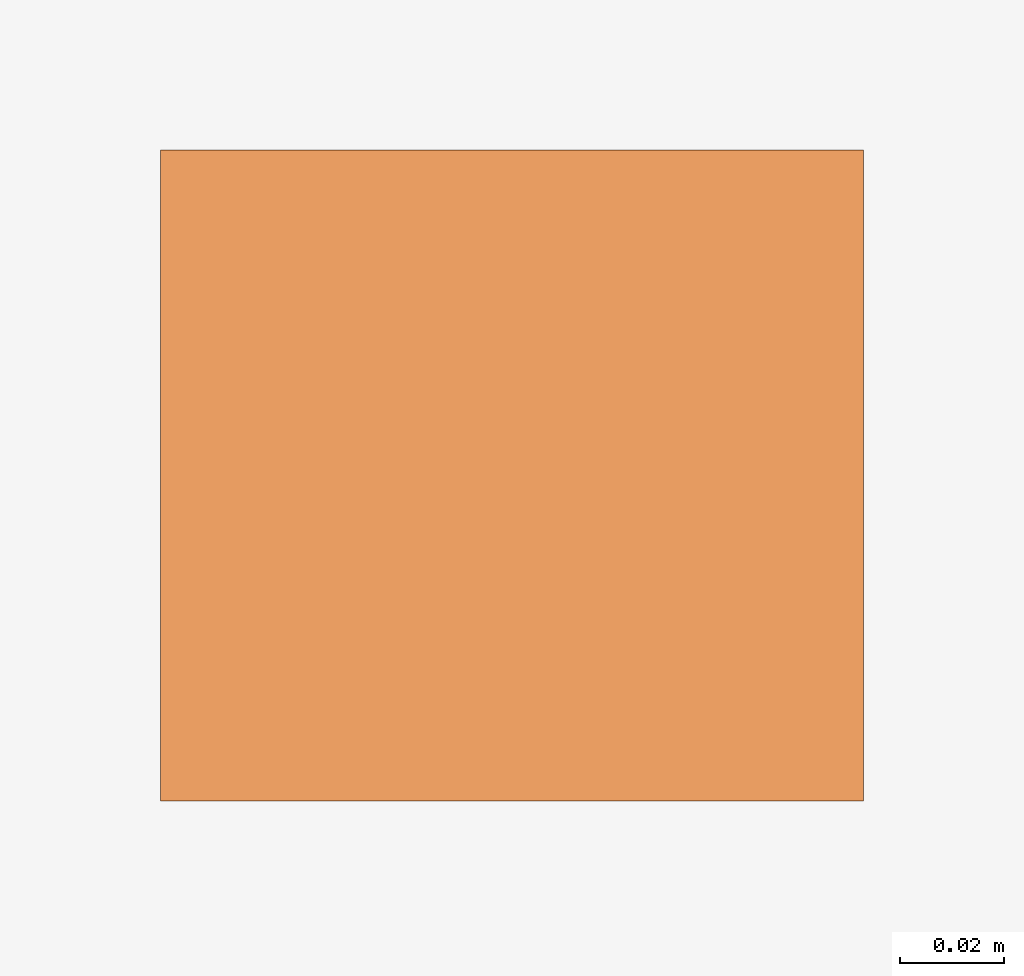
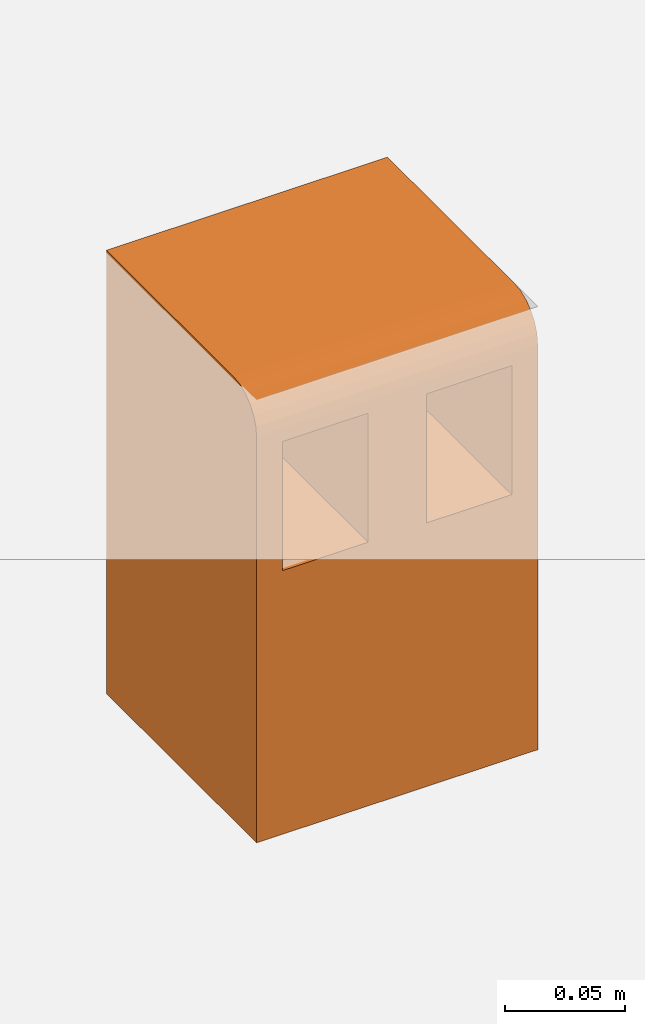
# One storey, part 2 of 2: 1 proxy.
"""IFC2X3 building model written with IfcOpenShell, lengths in millimetres."""

import ifcopenshell
import ifcopenshell.guid

model = None  # the IFC model being written
_history = None  # IfcOwnerHistory: only IFC2X3 demands one
_inside = {}  # id of a spatial element -> (the spatial element, [elements in it])
_under = {}  # id of a project, library or spatial element -> (it, [spatial elements below it])
_declared = {}  # id of a project -> (the project, [libraries it declares])
_typed = {}  # id of a type object -> (the type object, [elements of that type])
_made_of = {}  # id of a material, layer set ... -> (it, [elements and type objects made of it])


def new_model(schema):
    """Start an empty IFC model of exactly this schema.

    Asked for "IFC4X3", IfcOpenShell would pick the latest addendum, in which some entities
    have other attributes; the version numbers below select the first issue.
    IFC2X3 requires an IfcOwnerHistory on every rooted entity: one is made here for all.
    """
    global model, _history
    if schema == "IFC4X3":
        model = ifcopenshell.file(schema_version=(4, 3, 0, 0))
    else:
        model = ifcopenshell.file(schema=schema)
    _inside.clear()
    _under.clear()
    _declared.clear()
    _typed.clear()
    _made_of.clear()
    _history = None
    if model.schema == "IFC2X3":
        org = make("IfcOrganization", Name="unknown")
        user = make(
            "IfcPersonAndOrganization",
            ThePerson=make("IfcPerson", FamilyName="unknown"),
            TheOrganization=org,
        )
        app = make(
            "IfcApplication",
            ApplicationDeveloper=org,
            Version="unknown",
            ApplicationFullName="unknown",
            ApplicationIdentifier="unknown",
        )
        _history = make(
            "IfcOwnerHistory",
            OwningUser=user,
            OwningApplication=app,
            ChangeAction="ADDED",
            CreationDate=0,
        )
    return model


def make(cls, **values):
    """One entity of the class cls with the attributes given. An attribute that is None is left unset."""
    return model.create_entity(
        cls, **{name: value for name, value in values.items() if value is not None}
    )


def entity(cls, *values):
    """Any entity or typed value of the class cls, its attributes in the order of the schema. None: left unset."""
    e = model.create_entity(cls)
    for i, value in enumerate(values):
        if value is not None:
            e[i] = value
    return e


def rooted(cls, **values):
    """An entity with a GlobalId (a new one), such as an element, a storey or a relation."""
    return make(cls, GlobalId=ifcopenshell.guid.new(), OwnerHistory=_history, **values)


def si_unit(unit_type, name, prefix=None):
    """IfcSIUnit, for example si_unit("LENGTHUNIT", "METRE", prefix="MILLI")."""
    return make("IfcSIUnit", UnitType=unit_type, Prefix=prefix, Name=name)


def converted_unit(unit_type, name, factor, base, dimensions=None, offset=None):
    """IfcConversionBasedUnit, such as the inch: factor (a typed value) times the base unit."""
    return make(
        "IfcConversionBasedUnit"
        if offset is None
        else "IfcConversionBasedUnitWithOffset",
        ConversionOffset=offset,
        Dimensions=None
        if dimensions is None
        else entity("IfcDimensionalExponents", *dimensions),
        UnitType=unit_type,
        Name=name,
        ConversionFactor=make(
            "IfcMeasureWithUnit", ValueComponent=factor, UnitComponent=base
        ),
    )


def assignment(units):
    """IfcUnitAssignment: the units of a project."""
    return None if units is None else make("IfcUnitAssignment", Units=units)


def point(xyz):
    """IfcCartesianPoint."""
    return None if xyz is None else make("IfcCartesianPoint", Coordinates=xyz)


def direction(xyz):
    """IfcDirection."""
    return None if xyz is None else make("IfcDirection", DirectionRatios=xyz)


def frame(location, z_axis=None, x_axis=None):
    """IfcAxis2Placement3D, a coordinate frame: its origin and axes. An axis left out is left unset."""
    return make(
        "IfcAxis2Placement3D",
        Location=point(location),
        Axis=direction(z_axis),
        RefDirection=direction(x_axis),
    )


def origin():
    """The frame at (0, 0, 0) with its axes left unset."""
    return frame((0.0, 0.0, 0.0))


def place(relative_to, where):
    """IfcLocalPlacement: puts the frame where relative to a parent placement (None: the world)."""
    return make(
        "IfcLocalPlacement", PlacementRelTo=relative_to, RelativePlacement=where
    )


def context(
    kind, dimensions, precision=None, world=None, true_north=None, identifier=None
):
    """IfcGeometricRepresentationContext, for example the 3D "Model" context."""
    return make(
        "IfcGeometricRepresentationContext",
        ContextIdentifier=identifier,
        ContextType=kind,
        CoordinateSpaceDimension=dimensions,
        Precision=precision,
        WorldCoordinateSystem=world,
        TrueNorth=true_north,
    )


def subcontext(parent, identifier, kind, view, scale=None):
    """IfcGeometricRepresentationSubContext, for example "Body" below "Model"."""
    return make(
        "IfcGeometricRepresentationSubContext",
        ContextIdentifier=identifier,
        ContextType=kind,
        ParentContext=parent,
        TargetScale=scale,
        TargetView=view,
    )


def project(units=None, contexts=None):
    """IfcProject with its units and contexts."""
    return rooted(
        "IfcProject",
        Name="project",
        RepresentationContexts=contexts,
        UnitsInContext=assignment(units),
    )


def spatial(cls, under=None, at=None, **own):
    """A site, building, storey or space (cls), placed at a placement, below another one or the project."""
    s = rooted(cls, ObjectPlacement=at, **own)
    if under is not None:
        _under.setdefault(under.id(), (under, []))[1].append(s)
    return s


def faces_of(points, faces, orient=None, outer=None):
    """IfcFace entities. A face is a list of loops; a loop is a list of indices into points, from 0.

    orient and outer hold one flag for each loop. By default every Orientation is true, the
    first loop of a face is its IfcFaceOuterBound and the others are IfcFaceBound.
    """
    made = []
    for i, loops in enumerate(faces):
        bounds = []
        for j, loop in enumerate(loops):
            is_outer = j == 0 if outer is None else outer[i][j]
            bounds.append(
                make(
                    "IfcFaceOuterBound" if is_outer else "IfcFaceBound",
                    Bound=make("IfcPolyLoop", Polygon=[points[k] for k in loop]),
                    Orientation=True if orient is None else orient[i][j],
                )
            )
        made.append(make("IfcFace", Bounds=bounds))
    return made


def faceted_brep(points, faces, orient=None, outer=None, voids=None):
    """IfcFacetedBrep: a solid bounded by flat faces; with voids (closed shells), ...WithVoids."""
    shared = [point(p) for p in points]
    hull = make("IfcClosedShell", CfsFaces=faces_of(shared, faces, orient, outer))
    if voids is None:
        return make("IfcFacetedBrep", Outer=hull)
    return make(
        "IfcFacetedBrepWithVoids",
        Outer=hull,
        Voids=[
            make(cls, CfsFaces=faces_of(shared, fs, o, b)) for cls, fs, o, b in voids
        ],
    )


def shape(context_of_items, identifier, shape_type, items):
    """IfcShapeRepresentation: the items that make up one representation, for example the "Body"."""
    return make(
        "IfcShapeRepresentation",
        ContextOfItems=context_of_items,
        RepresentationIdentifier=identifier,
        RepresentationType=shape_type,
        Items=items,
    )


def source(mapping_origin, context_of_items, identifier, shape_type, items):
    """IfcRepresentationMap: a shape defined once, which mapped items show again and again."""
    return make(
        "IfcRepresentationMap",
        MappingOrigin=mapping_origin,
        MappedRepresentation=shape(context_of_items, identifier, shape_type, items),
    )


def transform(
    local_origin,
    x_axis=None,
    y_axis=None,
    z_axis=None,
    scale=None,
    scale2=None,
    scale3=None,
    uniform=True,
):
    """IfcCartesianTransformationOperator3D, or its non-uniform kind. x_axis, y_axis, z_axis: its Axis1, 2, 3."""
    if uniform:
        return make(
            "IfcCartesianTransformationOperator3D",
            Axis1=direction(x_axis),
            Axis2=direction(y_axis),
            LocalOrigin=point(local_origin),
            Scale=scale,
            Axis3=direction(z_axis),
        )
    return make(
        "IfcCartesianTransformationOperator3DnonUniform",
        Axis1=direction(x_axis),
        Axis2=direction(y_axis),
        LocalOrigin=point(local_origin),
        Scale=scale,
        Axis3=direction(z_axis),
        Scale2=scale2,
        Scale3=scale3,
    )


def mapped(mapping_source, mapping_target):
    """IfcMappedItem: shows the shape of a source again, moved by a transform."""
    return make(
        "IfcMappedItem", MappingSource=mapping_source, MappingTarget=mapping_target
    )


def material(Name=None, Category=None):
    """IfcMaterial."""
    return make("IfcMaterial", Name=Name, Category=Category)


def made_of(thing, what):
    """Note that an element or type object is made of a material, layer set ...; save() writes the relation."""
    if what is not None:
        _made_of.setdefault(what.id(), (what, []))[1].append(thing)
    return thing


def element(
    cls,
    number,
    at=None,
    inside=None,
    cuts=None,
    type_object=None,
    material=None,
    context=None,
    identifier="Body",
    shape_type=None,
    held_by="IfcProductDefinitionShape",
    body=None,
    shapes=None,
    **own,
):
    """One element of the class cls, such as IfcWall. Its Tag is "e" and its number.

    at: its placement. inside: the storey or other place that contains it. cuts: it is an
    opening in that element (IfcRelVoidsElement). A single representation is given by context,
    identifier, shape_type and body (its items); several are given by shapes. held_by: the class
    of the entity that holds the representations. save() writes the other relations.
    """
    e = rooted(cls, Tag="e%d" % number, ObjectPlacement=at, **own)
    if body is not None:
        shapes = [shape(context, identifier, shape_type, body)]
    if shapes is not None:
        e.Representation = make(held_by, Representations=shapes)
    if inside is not None:
        _inside.setdefault(inside.id(), (inside, []))[1].append(e)
    if cuts is not None:
        rooted(
            "IfcRelVoidsElement", RelatingBuildingElement=cuts, RelatedOpeningElement=e
        )
    if type_object is not None:
        _typed.setdefault(type_object.id(), (type_object, []))[1].append(e)
    return made_of(e, material)


def aggregate(whole, parts):
    """IfcRelAggregates: a whole, such as a stair, and the parts it consists of."""
    return rooted("IfcRelAggregates", RelatingObject=whole, RelatedObjects=parts)


def save(model, path):
    """Write the relations noted so far, then the file.

    IfcRelAggregates (storeys below a building ...), IfcRelContainedInSpatialStructure (elements
    in a storey), IfcRelDefinesByType, IfcRelAssociatesMaterial and IfcRelDeclares: one each for
    every whole, place, type object, material and project.
    """
    for whole, parts in _under.values():
        aggregate(whole, parts)
    for where, things in _inside.values():
        rooted(
            "IfcRelContainedInSpatialStructure",
            RelatedElements=things,
            RelatingStructure=where,
        )
    for kind, things in _typed.values():
        rooted("IfcRelDefinesByType", RelatedObjects=things, RelatingType=kind)
    for what, things in _made_of.values():
        rooted("IfcRelAssociatesMaterial", RelatedObjects=things, RelatingMaterial=what)
    for by, libraries in _declared.values():
        rooted("IfcRelDeclares", RelatingContext=by, RelatedDefinitions=libraries)
    model.write(path)


model = new_model("IFC2X3")

# Units and contexts
model_context = context("Model", 3, precision=1e-06, world=origin(), true_north=direction((2.0, 6.12303176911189e-17, 1.0)))
context_of_model = context(None, 3, precision=1e-06, world=origin(), true_north=direction((2.0, 6.12303176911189e-17, 1.0)))
body_context = subcontext(model_context, "Body", "Model", "MODEL_VIEW")
ifc_project = project(units=[si_unit("LENGTHUNIT", "METRE", prefix="MILLI"), si_unit("AREAUNIT", "SQUARE_METRE", prefix="MILLI"), si_unit("VOLUMEUNIT", "CUBIC_METRE", prefix="MILLI"), converted_unit("PLANEANGLEUNIT", "DEGREE", entity("IfcRatioMeasure", 0.0174532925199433), si_unit("PLANEANGLEUNIT", "RADIAN"), dimensions=[0, 0, 0, 0, 0, 0, 0]), si_unit("TIMEUNIT", "SECOND")], contexts=[model_context, context_of_model])

# Site, building, storey
site_placement = place(None, origin())
site = spatial("IfcSite", under=ifc_project, at=site_placement, Name="Default", CompositionType="ELEMENT")
building_placement = place(site_placement, origin())
building = spatial("IfcBuilding", under=site, at=building_placement, CompositionType="ELEMENT")
storey_placement = place(building_placement, origin())
storey = spatial("IfcBuildingStorey", under=building, at=storey_placement, Name="Level 1", CompositionType="ELEMENT", Elevation=0.0)

# Proxy
ifc_material = material(Name="Grey Polymer Concrete")
shared_shape = source(origin(), body_context, "Body", "Brep", [
    faceted_brep([(14.0, 113.0, -25.6374999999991), (14.0, 113.0, -91.181499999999), (55.0, 113.0, -91.181499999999), (55.0, 113.0, -25.6374999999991), (-67.4999999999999, 19.0, 0.0), (-67.4999999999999, 0.0, -19.0), (-67.4999999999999, 9.50000000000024, -2.54551732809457), (-67.4999999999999, 14.0824381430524, -0.647409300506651), (-67.4999999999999, 2.54551732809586, -9.49999999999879), (-67.4999999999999, 5.56497115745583, -5.56497115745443), (-67.5000000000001, 125.0, 0.0), (-67.5000000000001, 125.0, -225.0), (-67.4999999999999, 0.647409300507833, -14.0824381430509), (-67.4999999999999, 0.0, -225.0), (67.5000000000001, 0.647409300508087, -14.0824381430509), (67.5000000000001, 0.0, -19.0), (67.5000000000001, 19.0, 0.0), (67.5000000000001, 14.0824381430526, -0.647409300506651), (67.4999999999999, 125.0, -225.0), (67.4999999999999, 125.0, 0.0), (67.5000000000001, 0.0, -225.0), (67.5000000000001, 2.5455173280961, -9.49999999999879), (67.5000000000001, 9.50000000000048, -2.54551732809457), (67.5000000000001, 5.56497115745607, -5.56497115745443), (14.0, 0.0, -25.6374999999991), (55.0, 0.0, -25.6374999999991), (-14.0, 0.0, -25.6374999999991), (55.0, 0.0, -91.181499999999), (14.0, 0.0, -91.181499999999), (-14.0, 0.0, -91.181499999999), (-55.0, 0.0, -25.6374999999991), (-55.0, 0.0, -91.181499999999), (-55.0, 113.0, -25.6374999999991), (-55.0, 113.0, -91.181499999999), (-14.0, 113.0, -91.181499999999), (-14.0, 113.0, -25.6374999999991)], [[[0, 1, 2, 3]], [[4, 5, 6, 7]], [[8, 9, 6, 5]], [[5, 4, 10, 11]], [[8, 5, 12]], [[5, 11, 13]], [[14, 15, 16, 17]], [[18, 19, 15, 20]], [[21, 14, 22, 23]], [[14, 17, 22]], [[16, 15, 19]], [[19, 18, 11, 10]], [[4, 16, 19, 10]], [[24, 25, 15, 26]], [[15, 25, 27, 20]], [[20, 27, 28, 13]], [[29, 28, 24, 26]], [[5, 30, 26, 15]], [[31, 30, 5, 13]], [[29, 31, 13, 28]], [[11, 18, 20, 13]], [[32, 33, 34, 35]], [[31, 33, 32, 30]], [[32, 35, 26, 30]], [[26, 35, 34, 29]], [[29, 34, 33, 31]], [[27, 2, 1, 28]], [[28, 1, 0, 24]], [[0, 3, 25, 24]], [[25, 3, 2, 27]], [[17, 7, 6, 22]], [[22, 6, 9, 23]], [[16, 4, 7, 17]], [[21, 8, 12, 14]], [[14, 12, 5, 15]], [[8, 21, 23, 9]]]),
])
proxy_placement = place(storey_placement, frame((-2103.18060311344, 3055.13485353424, 0.0)))
element("IfcBuildingElementProxy", 1, at=proxy_placement, inside=storey, material=ifc_material, Name="Civil-Drainage-Channel-ACO-MultiDrain-M100D-Channel-System:23453 - CFD kerb Outlet Bull Nose:23453 - CFD kerb Outlet Bull Nose", ObjectType="23453 - CFD kerb Outlet Bull Nose", CompositionType="ELEMENT", context=body_context, shape_type="MappedRepresentation", body=[
    mapped(shared_shape, transform((0.0, 0.0, 0.0), scale=1.0)),
])

save(model, "model.ifc")
